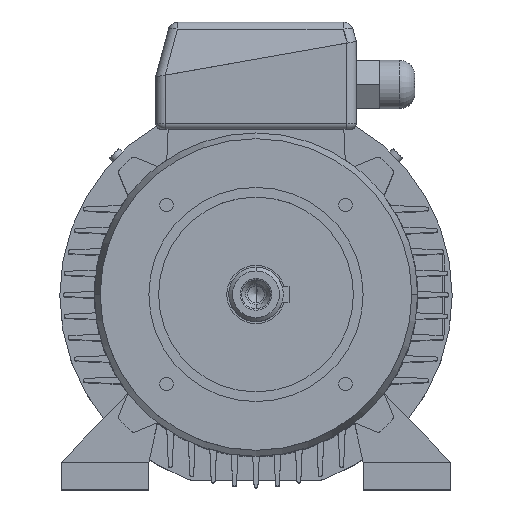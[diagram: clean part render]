
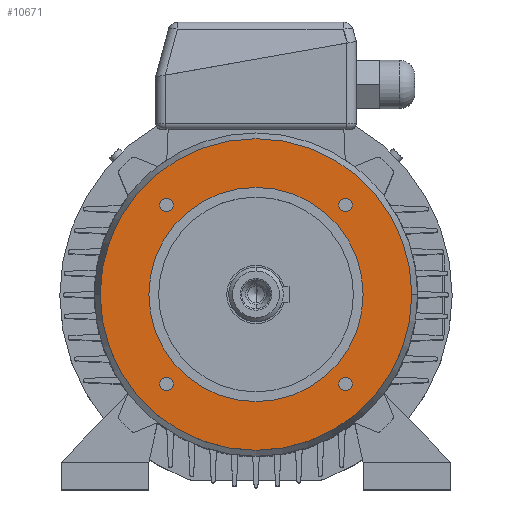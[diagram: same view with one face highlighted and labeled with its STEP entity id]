
A CAD part, top view. The second image highlights one B-rep face of the part: STEP entity #10671.
In plain terms, the highlighted planar face has unit normal (0, 0, 1).
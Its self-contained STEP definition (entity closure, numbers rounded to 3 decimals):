
#16439 = VERTEX_POINT ( 'NONE', #6678 ) ;
#111 = VERTEX_POINT ( 'NONE', #10822 ) ;
#16507 = EDGE_CURVE ( 'NONE', #111, #1672, #6684, .T. ) ;
#371 = EDGE_CURVE ( 'NONE', #1672, #111, #10980, .T. ) ;
#16761 = CARTESIAN_POINT ( 'NONE',  ( 42.562, 45.962, 45. ) ) ;
#756 = CIRCLE ( 'NONE', #757, 3.4 ) ;
#757 = AXIS2_PLACEMENT_3D ( 'NONE', #758, #759, #760 ) ;
#758 = CARTESIAN_POINT ( 'NONE',  ( -45.962, 45.962, 45. ) ) ;
#759 = DIRECTION ( 'NONE',  ( 0., 0., 1. ) ) ;
#760 = DIRECTION ( 'NONE',  ( 1., 0., 0. ) ) ;
#1308 = CARTESIAN_POINT ( 'NONE',  ( -42.562, 45.962, 45. ) ) ;
#1379 = EDGE_CURVE ( 'NONE', #10710, #10930, #12023, .T. ) ;
#1641 = CIRCLE ( 'NONE', #1642, 3.4 ) ;
#1642 = AXIS2_PLACEMENT_3D ( 'NONE', #1648, #1649, #1650 ) ;
#1648 = CARTESIAN_POINT ( 'NONE',  ( -45.962, 45.962, 45. ) ) ;
#1649 = DIRECTION ( 'NONE',  ( 0., 0., 1. ) ) ;
#1650 = DIRECTION ( 'NONE',  ( 1., 0., 0. ) ) ;
#1672 = VERTEX_POINT ( 'NONE', #12330 ) ;
#1833 = ORIENTED_EDGE ( 'NONE', *, *, #1379, .F. ) ;
#1961 = FACE_BOUND ( 'NONE', #10582, .T. ) ;
#1962 = FACE_BOUND ( 'NONE', #10033, .T. ) ;
#1963 = FACE_BOUND ( 'NONE', #8914, .T. ) ;
#1964 = FACE_BOUND ( 'NONE', #15617, .T. ) ;
#1965 = FACE_BOUND ( 'NONE', #13670, .T. ) ;
#1966 = FACE_OUTER_BOUND ( 'NONE', #11945, .T. ) ;
#1967 = PLANE ( 'NONE',  #1968 ) ;
#1968 = AXIS2_PLACEMENT_3D ( 'NONE', #1969, #1970, #1971 ) ;
#1969 = CARTESIAN_POINT ( 'NONE',  ( 0., 80., 45. ) ) ;
#1970 = DIRECTION ( 'NONE',  ( 0., 0., 1. ) ) ;
#1971 = DIRECTION ( 'NONE',  ( 0., -1., 0. ) ) ;
#2069 = CARTESIAN_POINT ( 'NONE',  ( 0., -80., 45. ) ) ;
#2221 = CARTESIAN_POINT ( 'NONE',  ( 0., 80., 45. ) ) ;
#2268 = CIRCLE ( 'NONE', #2269, 55. ) ;
#2269 = AXIS2_PLACEMENT_3D ( 'NONE', #2270, #2271, #2276 ) ;
#2270 = CARTESIAN_POINT ( 'NONE',  ( 0., 0., 45. ) ) ;
#2271 = DIRECTION ( 'NONE',  ( 0., 0., -1. ) ) ;
#2276 = DIRECTION ( 'NONE',  ( 0., 1., 0. ) ) ;
#2359 = CIRCLE ( 'NONE', #2360, 80. ) ;
#2360 = AXIS2_PLACEMENT_3D ( 'NONE', #2361, #2362, #2363 ) ;
#2361 = CARTESIAN_POINT ( 'NONE',  ( 0., 0., 45. ) ) ;
#2362 = DIRECTION ( 'NONE',  ( 0., 0., -1. ) ) ;
#2363 = DIRECTION ( 'NONE',  ( 0., 1., 0. ) ) ;
#2457 = ORIENTED_EDGE ( 'NONE', *, *, #11111, .F. ) ;
#2462 = CARTESIAN_POINT ( 'NONE',  ( -49.362, 45.962, 45. ) ) ;
#19082 = CIRCLE ( 'NONE', #19083, 3.4 ) ;
#19083 = AXIS2_PLACEMENT_3D ( 'NONE', #19084, #19085, #19086 ) ;
#19084 = CARTESIAN_POINT ( 'NONE',  ( -45.962, -45.962, 45. ) ) ;
#19085 = DIRECTION ( 'NONE',  ( 0., 0., 1. ) ) ;
#19086 = DIRECTION ( 'NONE',  ( 1., 0., 0. ) ) ;
#4022 = CARTESIAN_POINT ( 'NONE',  ( 0., 55., 45. ) ) ;
#4159 = CIRCLE ( 'NONE', #4160, 55. ) ;
#4160 = AXIS2_PLACEMENT_3D ( 'NONE', #4161, #4162, #4167 ) ;
#4161 = CARTESIAN_POINT ( 'NONE',  ( 0., 0., 45. ) ) ;
#4162 = DIRECTION ( 'NONE',  ( 0., 0., -1. ) ) ;
#4167 = DIRECTION ( 'NONE',  ( 0., 1., 0. ) ) ;
#5128 = CARTESIAN_POINT ( 'NONE',  ( 0., -55., 45. ) ) ;
#5210 = CIRCLE ( 'NONE', #5211, 3.4 ) ;
#5211 = AXIS2_PLACEMENT_3D ( 'NONE', #5212, #5213, #5214 ) ;
#5212 = CARTESIAN_POINT ( 'NONE',  ( 45.962, 45.962, 45. ) ) ;
#5213 = DIRECTION ( 'NONE',  ( 0., 0., 1. ) ) ;
#5214 = DIRECTION ( 'NONE',  ( 1., 0., 0. ) ) ;
#5381 = VERTEX_POINT ( 'NONE', #15779 ) ;
#5631 = EDGE_CURVE ( 'NONE', #6689, #5381, #15945, .T. ) ;
#5817 = CARTESIAN_POINT ( 'NONE',  ( -42.562, -45.962, 45. ) ) ;
#5997 = CIRCLE ( 'NONE', #5998, 3.4 ) ;
#5998 = AXIS2_PLACEMENT_3D ( 'NONE', #6009, #6010, #6011 ) ;
#6009 = CARTESIAN_POINT ( 'NONE',  ( -45.962, -45.962, 45. ) ) ;
#6010 = DIRECTION ( 'NONE',  ( 0., 0., 1. ) ) ;
#6011 = DIRECTION ( 'NONE',  ( 1., 0., 0. ) ) ;
#6678 = CARTESIAN_POINT ( 'NONE',  ( -49.362, -45.962, 45. ) ) ;
#6684 = CIRCLE ( 'NONE', #6685, 3.4 ) ;
#6685 = AXIS2_PLACEMENT_3D ( 'NONE', #6692, #6693, #6694 ) ;
#6689 = VERTEX_POINT ( 'NONE', #16761 ) ;
#6692 = CARTESIAN_POINT ( 'NONE',  ( 45.962, -45.962, 45. ) ) ;
#6693 = DIRECTION ( 'NONE',  ( 0., 0., 1. ) ) ;
#6694 = DIRECTION ( 'NONE',  ( 1., 0., 0. ) ) ;
#8496 = ORIENTED_EDGE ( 'NONE', *, *, #16507, .F. ) ;
#8914 = EDGE_LOOP ( 'NONE', ( #8496, #15893 ) ) ;
#9214 = ORIENTED_EDGE ( 'NONE', *, *, #15405, .F. ) ;
#9736 = EDGE_CURVE ( 'NONE', #15143, #16439, #19082, .T. ) ;
#9859 = ORIENTED_EDGE ( 'NONE', *, *, #9736, .F. ) ;
#10033 = EDGE_LOOP ( 'NONE', ( #9859, #9214 ) ) ;
#10107 = ORIENTED_EDGE ( 'NONE', *, *, #10562, .F. ) ;
#10284 = EDGE_CURVE ( 'NONE', #10494, #11244, #756, .T. ) ;
#10410 = ORIENTED_EDGE ( 'NONE', *, *, #10284, .F. ) ;
#10494 = VERTEX_POINT ( 'NONE', #1308 ) ;
#10562 = EDGE_CURVE ( 'NONE', #11244, #10494, #1641, .T. ) ;
#10582 = EDGE_LOOP ( 'NONE', ( #10410, #10107 ) ) ;
#10671 = ADVANCED_FACE ( 'NONE', ( #1961, #1962, #1963, #1964, #1965, #1966 ), #1967, .T. ) ;
#10710 = VERTEX_POINT ( 'NONE', #2069 ) ;
#10822 = CARTESIAN_POINT ( 'NONE',  ( 49.362, -45.962, 45. ) ) ;
#10930 = VERTEX_POINT ( 'NONE', #2221 ) ;
#10980 = CIRCLE ( 'NONE', #10981, 3.4 ) ;
#10981 = AXIS2_PLACEMENT_3D ( 'NONE', #10982, #10983, #10984 ) ;
#10982 = CARTESIAN_POINT ( 'NONE',  ( 45.962, -45.962, 45. ) ) ;
#10983 = DIRECTION ( 'NONE',  ( 0., 0., 1. ) ) ;
#10984 = DIRECTION ( 'NONE',  ( 1., 0., 0. ) ) ;
#11002 = EDGE_CURVE ( 'NONE', #14378, #13069, #2268, .T. ) ;
#11111 = EDGE_CURVE ( 'NONE', #10930, #10710, #2359, .T. ) ;
#11244 = VERTEX_POINT ( 'NONE', #2462 ) ;
#11945 = EDGE_LOOP ( 'NONE', ( #2457, #1833 ) ) ;
#12023 = CIRCLE ( 'NONE', #12024, 80. ) ;
#12024 = AXIS2_PLACEMENT_3D ( 'NONE', #12025, #12026, #12027 ) ;
#12025 = CARTESIAN_POINT ( 'NONE',  ( 0., 0., 45. ) ) ;
#12026 = DIRECTION ( 'NONE',  ( 0., 0., -1. ) ) ;
#12027 = DIRECTION ( 'NONE',  ( 0., 1., 0. ) ) ;
#12248 = ORIENTED_EDGE ( 'NONE', *, *, #11002, .T. ) ;
#12330 = CARTESIAN_POINT ( 'NONE',  ( 42.562, -45.962, 45. ) ) ;
#12875 = ORIENTED_EDGE ( 'NONE', *, *, #13322, .T. ) ;
#13069 = VERTEX_POINT ( 'NONE', #4022 ) ;
#13322 = EDGE_CURVE ( 'NONE', #13069, #14378, #4159, .T. ) ;
#13670 = EDGE_LOOP ( 'NONE', ( #12875, #12248 ) ) ;
#13947 = ORIENTED_EDGE ( 'NONE', *, *, #5631, .F. ) ;
#14378 = VERTEX_POINT ( 'NONE', #5128 ) ;
#14575 = EDGE_CURVE ( 'NONE', #5381, #6689, #5210, .T. ) ;
#15014 = ORIENTED_EDGE ( 'NONE', *, *, #14575, .F. ) ;
#15143 = VERTEX_POINT ( 'NONE', #5817 ) ;
#15405 = EDGE_CURVE ( 'NONE', #16439, #15143, #5997, .T. ) ;
#15617 = EDGE_LOOP ( 'NONE', ( #15014, #13947 ) ) ;
#15779 = CARTESIAN_POINT ( 'NONE',  ( 49.362, 45.962, 45. ) ) ;
#15893 = ORIENTED_EDGE ( 'NONE', *, *, #371, .F. ) ;
#15945 = CIRCLE ( 'NONE', #15946, 3.4 ) ;
#15946 = AXIS2_PLACEMENT_3D ( 'NONE', #15947, #15948, #15949 ) ;
#15947 = CARTESIAN_POINT ( 'NONE',  ( 45.962, 45.962, 45. ) ) ;
#15948 = DIRECTION ( 'NONE',  ( 0., 0., 1. ) ) ;
#15949 = DIRECTION ( 'NONE',  ( 1., 0., 0. ) ) ;
